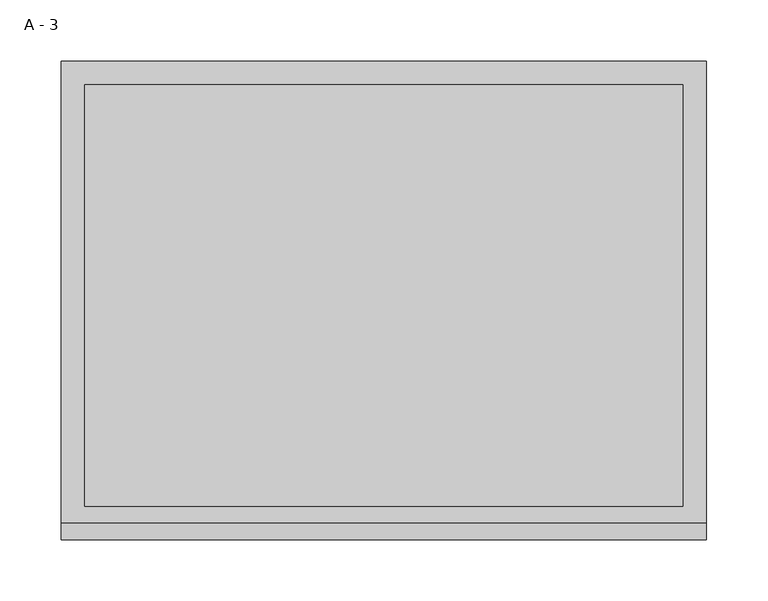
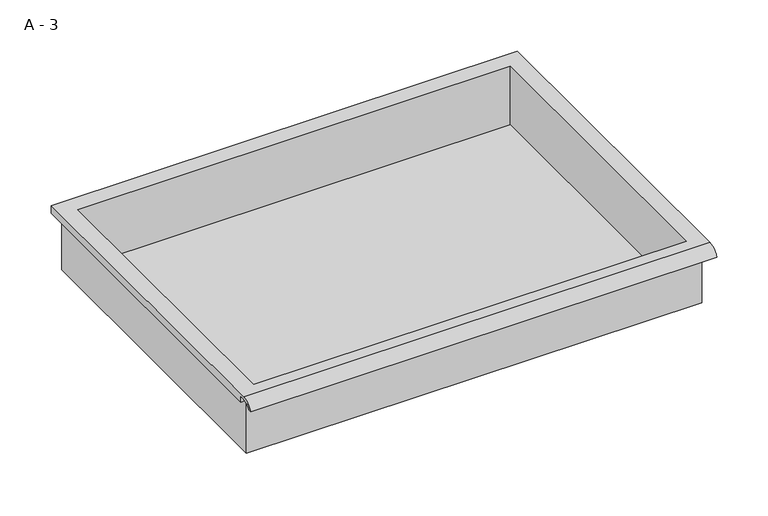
"""IFC4 building model written with IfcOpenShell, lengths in millimetres: furniture geometry, HermanMiller_CoStruc_CO207_Drawer : A - 3."""

import ifcopenshell
import ifcopenshell.guid

model = None  # the IFC model being written
_history = None  # IfcOwnerHistory: only IFC2X3 demands one
_inside = {}  # id of a spatial element -> (the spatial element, [elements in it])
_under = {}  # id of a project, library or spatial element -> (it, [spatial elements below it])
_declared = {}  # id of a project -> (the project, [libraries it declares])
_typed = {}  # id of a type object -> (the type object, [elements of that type])
_made_of = {}  # id of a material, layer set ... -> (it, [elements and type objects made of it])


def new_model(schema):
    """Start an empty IFC model of exactly this schema.

    Asked for "IFC4X3", IfcOpenShell would pick the latest addendum, in which some entities
    have other attributes; the version numbers below select the first issue.
    IFC2X3 requires an IfcOwnerHistory on every rooted entity: one is made here for all.
    """
    global model, _history
    if schema == "IFC4X3":
        model = ifcopenshell.file(schema_version=(4, 3, 0, 0))
    else:
        model = ifcopenshell.file(schema=schema)
    _inside.clear()
    _under.clear()
    _declared.clear()
    _typed.clear()
    _made_of.clear()
    _history = None
    if model.schema == "IFC2X3":
        org = make("IfcOrganization", Name="unknown")
        user = make(
            "IfcPersonAndOrganization",
            ThePerson=make("IfcPerson", FamilyName="unknown"),
            TheOrganization=org,
        )
        app = make(
            "IfcApplication",
            ApplicationDeveloper=org,
            Version="unknown",
            ApplicationFullName="unknown",
            ApplicationIdentifier="unknown",
        )
        _history = make(
            "IfcOwnerHistory",
            OwningUser=user,
            OwningApplication=app,
            ChangeAction="ADDED",
            CreationDate=0,
        )
    return model


def make(cls, **values):
    """One entity of the class cls with the attributes given. An attribute that is None is left unset."""
    return model.create_entity(
        cls, **{name: value for name, value in values.items() if value is not None}
    )


def rooted(cls, **values):
    """An entity with a GlobalId (a new one), such as an element, a storey or a relation."""
    return make(cls, GlobalId=ifcopenshell.guid.new(), OwnerHistory=_history, **values)


def si_unit(unit_type, name, prefix=None):
    """IfcSIUnit, for example si_unit("LENGTHUNIT", "METRE", prefix="MILLI")."""
    return make("IfcSIUnit", UnitType=unit_type, Prefix=prefix, Name=name)


def assignment(units):
    """IfcUnitAssignment: the units of a project."""
    return None if units is None else make("IfcUnitAssignment", Units=units)


def point(xyz):
    """IfcCartesianPoint."""
    return None if xyz is None else make("IfcCartesianPoint", Coordinates=xyz)


def direction(xyz):
    """IfcDirection."""
    return None if xyz is None else make("IfcDirection", DirectionRatios=xyz)


def frame(location, z_axis=None, x_axis=None):
    """IfcAxis2Placement3D, a coordinate frame: its origin and axes. An axis left out is left unset."""
    return make(
        "IfcAxis2Placement3D",
        Location=point(location),
        Axis=direction(z_axis),
        RefDirection=direction(x_axis),
    )


def origin():
    """The frame at (0, 0, 0) with its axes left unset."""
    return frame((0.0, 0.0, 0.0))


def place(relative_to, where):
    """IfcLocalPlacement: puts the frame where relative to a parent placement (None: the world)."""
    return make(
        "IfcLocalPlacement", PlacementRelTo=relative_to, RelativePlacement=where
    )


def context(
    kind, dimensions, precision=None, world=None, true_north=None, identifier=None
):
    """IfcGeometricRepresentationContext, for example the 3D "Model" context."""
    return make(
        "IfcGeometricRepresentationContext",
        ContextIdentifier=identifier,
        ContextType=kind,
        CoordinateSpaceDimension=dimensions,
        Precision=precision,
        WorldCoordinateSystem=world,
        TrueNorth=true_north,
    )


def project(units=None, contexts=None):
    """IfcProject with its units and contexts."""
    return rooted(
        "IfcProject",
        Name="project",
        RepresentationContexts=contexts,
        UnitsInContext=assignment(units),
    )


def spatial(cls, under=None, at=None, **own):
    """A site, building, storey or space (cls), placed at a placement, below another one or the project."""
    s = rooted(cls, ObjectPlacement=at, **own)
    if under is not None:
        _under.setdefault(under.id(), (under, []))[1].append(s)
    return s


def polyline(points):
    """IfcPolyline through the points."""
    return make("IfcPolyline", Points=[point(p) for p in points])


def circle_curve(where, radius):
    """IfcCircle in the frame where."""
    return make("IfcCircle", Position=where, Radius=radius)


def shape(context_of_items, identifier, shape_type, items):
    """IfcShapeRepresentation: the items that make up one representation, for example the "Body"."""
    return make(
        "IfcShapeRepresentation",
        ContextOfItems=context_of_items,
        RepresentationIdentifier=identifier,
        RepresentationType=shape_type,
        Items=items,
    )


def source(mapping_origin, context_of_items, identifier, shape_type, items):
    """IfcRepresentationMap: a shape defined once, which mapped items show again and again."""
    return make(
        "IfcRepresentationMap",
        MappingOrigin=mapping_origin,
        MappedRepresentation=shape(context_of_items, identifier, shape_type, items),
    )


def transform(
    local_origin,
    x_axis=None,
    y_axis=None,
    z_axis=None,
    scale=None,
    scale2=None,
    scale3=None,
    uniform=True,
):
    """IfcCartesianTransformationOperator3D, or its non-uniform kind. x_axis, y_axis, z_axis: its Axis1, 2, 3."""
    if uniform:
        return make(
            "IfcCartesianTransformationOperator3D",
            Axis1=direction(x_axis),
            Axis2=direction(y_axis),
            LocalOrigin=point(local_origin),
            Scale=scale,
            Axis3=direction(z_axis),
        )
    return make(
        "IfcCartesianTransformationOperator3DnonUniform",
        Axis1=direction(x_axis),
        Axis2=direction(y_axis),
        LocalOrigin=point(local_origin),
        Scale=scale,
        Axis3=direction(z_axis),
        Scale2=scale2,
        Scale3=scale3,
    )


def mapped(mapping_source, mapping_target):
    """IfcMappedItem: shows the shape of a source again, moved by a transform."""
    return make(
        "IfcMappedItem", MappingSource=mapping_source, MappingTarget=mapping_target
    )


def made_of(thing, what):
    """Note that an element or type object is made of a material, layer set ...; save() writes the relation."""
    if what is not None:
        _made_of.setdefault(what.id(), (what, []))[1].append(thing)
    return thing


def element(
    cls,
    number,
    at=None,
    inside=None,
    cuts=None,
    type_object=None,
    material=None,
    context=None,
    identifier="Body",
    shape_type=None,
    held_by="IfcProductDefinitionShape",
    body=None,
    shapes=None,
    **own,
):
    """One element of the class cls, such as IfcWall. Its Tag is "e" and its number.

    at: its placement. inside: the storey or other place that contains it. cuts: it is an
    opening in that element (IfcRelVoidsElement). A single representation is given by context,
    identifier, shape_type and body (its items); several are given by shapes. held_by: the class
    of the entity that holds the representations. save() writes the other relations.
    """
    e = rooted(cls, Tag="e%d" % number, ObjectPlacement=at, **own)
    if body is not None:
        shapes = [shape(context, identifier, shape_type, body)]
    if shapes is not None:
        e.Representation = make(held_by, Representations=shapes)
    if inside is not None:
        _inside.setdefault(inside.id(), (inside, []))[1].append(e)
    if cuts is not None:
        rooted(
            "IfcRelVoidsElement", RelatingBuildingElement=cuts, RelatedOpeningElement=e
        )
    if type_object is not None:
        _typed.setdefault(type_object.id(), (type_object, []))[1].append(e)
    return made_of(e, material)


def aggregate(whole, parts):
    """IfcRelAggregates: a whole, such as a stair, and the parts it consists of."""
    return rooted("IfcRelAggregates", RelatingObject=whole, RelatedObjects=parts)


def save(model, path):
    """Write the relations noted so far, then the file.

    IfcRelAggregates (storeys below a building ...), IfcRelContainedInSpatialStructure (elements
    in a storey), IfcRelDefinesByType, IfcRelAssociatesMaterial and IfcRelDeclares: one each for
    every whole, place, type object, material and project.
    """
    for whole, parts in _under.values():
        aggregate(whole, parts)
    for where, things in _inside.values():
        rooted(
            "IfcRelContainedInSpatialStructure",
            RelatedElements=things,
            RelatingStructure=where,
        )
    for kind, things in _typed.values():
        rooted("IfcRelDefinesByType", RelatedObjects=things, RelatingType=kind)
    for what, things in _made_of.values():
        rooted("IfcRelAssociatesMaterial", RelatedObjects=things, RelatingMaterial=what)
    for by, libraries in _declared.values():
        rooted("IfcRelDeclares", RelatingContext=by, RelatedDefinitions=libraries)
    model.write(path)


def plane_surface(at):
    """IfcPlane: the flat surface through the origin of the frame at, square to its z axis."""
    return make("IfcPlane", Position=at)


def cylinder_surface(at, radius):
    """IfcCylindricalSurface: all points at the distance radius from the z axis of the frame at."""
    return make("IfcCylindricalSurface", Position=at, Radius=radius)


def revolved_surface(curve, axis_point, axis_direction):
    """IfcSurfaceOfRevolution: the curve turned about the line through axis_point along axis_direction."""
    return make(
        "IfcSurfaceOfRevolution",
        SweptCurve=make("IfcArbitraryOpenProfileDef", ProfileType="CURVE", Curve=curve),
        AxisPosition=make("IfcAxis1Placement", Location=point(axis_point), Axis=direction(axis_direction)),
    )


def advanced_brep(points, edges, surfaces, faces):
    """IfcAdvancedBrep: a solid bounded by faces that lie on surfaces and meet in shared edges.

    An edge is (start, end): straight between two places in points (the first is 0);
    or (start, end, curve); or (start, end, curve, False) where it runs against its curve.
    A face is (place in surfaces, loops), or (place, loops, False) where it looks against
    its surface's normal. A loop lists edges by number (the first is 1), with a minus sign
    where the edge is run from its end to its start. The first loop is the outer one.
    """
    corners = [point(p) for p in points]
    vertices = [make("IfcVertexPoint", VertexGeometry=c) for c in corners]
    made = []
    for start, end, *more in edges:
        made.append(
            make(
                "IfcEdgeCurve",
                EdgeStart=vertices[start],
                EdgeEnd=vertices[end],
                EdgeGeometry=more[0] if more else make("IfcPolyline", Points=[corners[start], corners[end]]),
                SameSense=more[1] if len(more) > 1 else True,
            )
        )
    hull = []
    for where, loops, *sense in faces:
        bounds = []
        for j, loop in enumerate(loops):
            ring = [make("IfcOrientedEdge", EdgeElement=made[abs(k) - 1], Orientation=k > 0) for k in loop]
            bounds.append(
                make(
                    "IfcFaceOuterBound" if j == 0 else "IfcFaceBound",
                    Bound=make("IfcEdgeLoop", EdgeList=ring),
                    Orientation=True,
                )
            )
        hull.append(make("IfcAdvancedFace", Bounds=bounds, FaceSurface=surfaces[where], SameSense=sense[0] if sense else True))
    return make("IfcAdvancedBrep", Outer=make("IfcClosedShell", CfsFaces=hull))


def a_3_20021f84(model_context):
    return source(origin(), model_context, "Body", "AdvancedBrep", [
        advanced_brep(
        [(-257.1076517, -176.2125, 725.5002), (257.2423483, -176.2125, 725.5002), (257.2423483, -176.2125, 789.0002), (263.5923483, -176.2125, 789.0002), (263.5923483, -176.2125, 795.3073341), (-263.4576517, -176.2125, 795.3073341), (-263.4576517, -176.2125, 789.0002), (-257.1076517, -176.2125, 789.0002), (257.2423483, 185.7375, 725.5002), (-257.1076517, 185.7375, 725.5002), (-257.1076517, 185.7375, 789.0002), (257.2423483, 185.7375, 789.0002), (263.5923483, -181.6070544, 798.5252), (263.5923483, 195.2625, 798.5252), (-263.4576517, 195.2625, 798.5252), (-263.4576517, -181.6070544, 798.5252), (244.5423483, -168.275, 798.5252), (-244.4076517, -168.275, 798.5252), (-244.4076517, 176.2125, 798.5252), (244.5423483, 176.2125, 798.5252), (263.5923483, -195.2625, 789.0002), (263.5923483, -191.8280601, 789.0002), (263.5923483, -180.4714815, 795.3073341), (263.5923483, 195.2625, 789.0002), (-263.4576517, 195.2625, 789.0002), (-263.4576517, -180.4714815, 795.3073341), (-263.4576517, -191.8280601, 789.0002), (-263.4576517, -195.2625, 789.0002), (-244.4076517, -168.275, 728.5263719), (244.5423483, -168.275, 728.5263719), (244.5423483, 176.2125, 728.5263719), (-244.4076517, 176.2125, 728.5263719)],
        [
            (0, 1),
            (1, 2),
            (2, 3),
            (3, 4),
            (4, 5),
            (5, 6),
            (6, 7),
            (7, 0),
            (8, 9),
            (9, 10),
            (10, 11),
            (11, 8),
            (0, 9),
            (8, 1),
            (11, 2),
            (12, 13),
            (13, 14),
            (14, 15),
            (15, 12),
            (16, 17),
            (17, 18),
            (18, 19),
            (19, 16),
            (7, 10),
            (12, 20, circle_curve(frame((263.5923483, -181.6070544, 783.9741859), z_axis=(1.0, 0.0, 0.0), x_axis=(0.0, 1.0, 0.0)), 14.5510141)),
            (20, 21),
            (21, 22, circle_curve(frame((263.5923483, -181.6070544, 783.9741859), z_axis=(-1.0, 0.0, 0.0), x_axis=(0.0, 1.0, 0.0)), 11.3898979)),
            (22, 4),
            (3, 23),
            (23, 13),
            (14, 24),
            (24, 6),
            (5, 25),
            (25, 26, circle_curve(frame((-263.4576517, -181.6070544, 783.9741859), z_axis=(1.0, 0.0, 0.0), x_axis=(0.0, 1.0, 0.0)), 11.3898979)),
            (26, 27),
            (27, 15, circle_curve(frame((-263.4576517, -181.6070544, 783.9741859), z_axis=(-1.0, 0.0, 0.0), x_axis=(0.0, 1.0, 0.0)), 14.5510141)),
            (27, 20),
            (26, 21),
            (25, 22),
            (24, 23),
            (28, 29),
            (29, 30),
            (30, 31),
            (31, 28),
            (28, 17),
            (16, 29),
            (19, 30),
            (18, 31),
        ],
        [
            plane_surface(frame((257.2423483, -176.2125, 725.5002), z_axis=(0.0, -1.0, 0.0), x_axis=(1.0, 0.0, 0.0))),
            plane_surface(frame((257.2423483, 185.7375, 725.5002), z_axis=(0.0, 1.0, 0.0), x_axis=(-1.0, 0.0, 0.0))),
            plane_surface(frame((-257.1076517, -176.2125, 725.5002), z_axis=(0.0, 0.0, -1.0), x_axis=(0.0, 1.0, 0.0))),
            plane_surface(frame((257.2423483, -176.2125, 725.5002), z_axis=(1.0, 0.0, 0.0), x_axis=(0.0, 1.0, 0.0))),
            plane_surface(frame((257.2423483, -176.2125, 798.5252), z_axis=(0.0, 0.0, 1.0), x_axis=(0.0, 1.0, 0.0))),
            plane_surface(frame((-257.1076517, -176.2125, 798.5252), z_axis=(-1.0, 0.0, 0.0), x_axis=(0.0, 1.0, 0.0))),
            plane_surface(frame((263.5923483, 195.2625, 798.5252), z_axis=(1.0, 0.0, 0.0), x_axis=(0.0, -1.0, 0.0))),
            plane_surface(frame((-263.4576517, 195.2625, 798.5252), z_axis=(-1.0, 0.0, 0.0), x_axis=(0.0, 1.0, 0.0))),
            cylinder_surface(frame((-263.4576517, -181.6070544, 783.9741859), z_axis=(1.0, 0.0, 0.0), x_axis=(0.0, 1.0, 0.0)), 14.5510141),
            plane_surface(frame((263.5923483, -195.2625, 789.0002), z_axis=(0.0, -7.1729970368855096e-12, -1.0), x_axis=(-1.0, 0.0, 0.0))),
            revolved_surface(polyline([(-263.4576517, -170.21715650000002, 783.9741859), (263.59234829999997, -170.21715650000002, 783.9741859)]), (-263.4576517, -181.6070544, 783.9741859), (-1.0, 0.0, 0.0)),
            plane_surface(frame((263.5923483, -180.4714815, 795.3073341), z_axis=(0.0, -1.7766064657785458e-11, -1.0), x_axis=(-1.0, 0.0, 0.0))),
            plane_surface(frame((263.5923483, -176.2125, 789.0002), z_axis=(0.0, 0.0, -1.0), x_axis=(-1.0, 0.0, 0.0))),
            plane_surface(frame((263.5923483, 195.2625, 789.0002), z_axis=(0.0, 1.0, 0.0), x_axis=(-1.0, 0.0, 0.0))),
            plane_surface(frame((244.5423483, -168.275, 728.5263719), z_axis=(0.0, 0.0, 1.0), x_axis=(-1.0, 0.0, 0.0))),
            plane_surface(frame((-244.4076517, -168.275, 798.5252), z_axis=(0.0, 1.0, 0.0), x_axis=(0.0, 0.0, -1.0))),
            plane_surface(frame((244.5423483, -168.275, 798.5252), z_axis=(-1.0, 0.0, 0.0), x_axis=(0.0, 0.0, -1.0))),
            plane_surface(frame((244.5423483, 176.2125, 798.5252), z_axis=(0.0, -1.0, 0.0), x_axis=(0.0, 0.0, -1.0))),
            plane_surface(frame((-244.4076517, 176.2125, 798.5252), z_axis=(1.0, 0.0, 0.0), x_axis=(0.0, 0.0, -1.0))),
        ],
        [
            (0, [[1, 2, 3, 4, 5, 6, 7, 8]]),
            (1, [[9, 10, 11, 12]]),
            (2, [[-1, 13, -9, 14]]),
            (3, [[-14, -12, 15, -2]]),
            (4, [[16, 17, 18, 19], [20, 21, 22, 23]]),
            (5, [[-13, -8, 24, -10]]),
            (6, [[-16, 25, 26, 27, 28, -4, 29, 30]]),
            (7, [[31, 32, -6, 33, 34, 35, 36, -18]]),
            (8, [[-25, -19, -36, 37]]),
            (9, [[-26, -37, -35, 38]]),
            (10, [[-27, -38, -34, 39]]),
            (11, [[-28, -39, -33, -5]]),
            (12, [[-29, -3, -15, -11, -24, -7, -32, 40]]),
            (13, [[-30, -40, -31, -17]]),
            (14, [[41, 42, 43, 44]]),
            (15, [[-41, 45, -20, 46]]),
            (16, [[-42, -46, -23, 47]]),
            (17, [[-43, -47, -22, 48]]),
            (18, [[-44, -48, -21, -45]]),
        ],
    ),
    ])


if __name__ == "__main__":
    model = new_model("IFC4")
    model_context = context("Model", 3, world=origin())
    ifc_project = project(units=[si_unit("LENGTHUNIT", "METRE", prefix="MILLI")], contexts=[model_context])
    site = spatial("IfcSite", under=ifc_project)
    building = spatial("IfcBuilding", under=site)
    placement = place(None, origin())
    a_3_shape = a_3_20021f84(model_context)
    element("IfcFurniture", 1, ObjectType="HermanMiller_CoStruc_CO207_Drawer : A - 3", at=placement, inside=building, context=model_context, shape_type="MappedRepresentation", body=[
        mapped(a_3_shape, transform((0.0, 0.0, 0.0), x_axis=(1.0, 0.0, 0.0), y_axis=(0.0, 1.0, 0.0), z_axis=(0.0, 0.0, 1.0))),
    ])
    save(model, "model.ifc")
